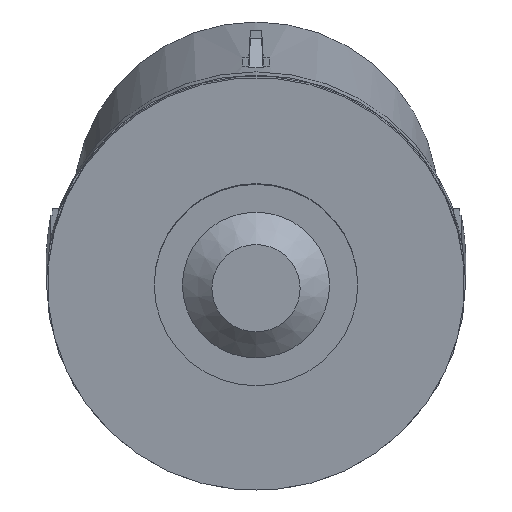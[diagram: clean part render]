
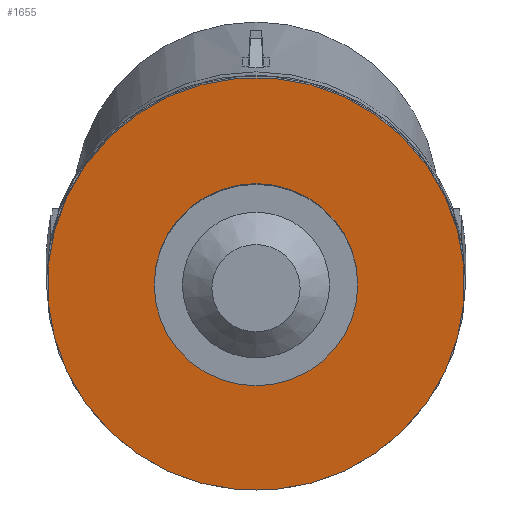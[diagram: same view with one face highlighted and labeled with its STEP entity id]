
A CAD part, left-side view. The second image highlights one B-rep face of the part: STEP entity #1655.
In plain terms, the highlighted planar face has unit normal (-0.99, 0, -0.144).
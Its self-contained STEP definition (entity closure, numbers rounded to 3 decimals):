
#148 = DIRECTION ( 'NONE',  ( 0., -1., 0. ) ) ;
#198 = CARTESIAN_POINT ( 'NONE',  ( -569.267, -291., 645.884 ) ) ;
#329 = DIRECTION ( 'NONE',  ( -0.99, 0., -0.144 ) ) ;
#349 = DIRECTION ( 'NONE',  ( -0.102, -0.707, 0.7 ) ) ;
#524 = EDGE_CURVE ( 'NONE', #1650, #1650, #1756, .T. ) ;
#618 = DIRECTION ( 'NONE',  ( 0.99, 0., 0.144 ) ) ;
#670 = DIRECTION ( 'NONE',  ( -0.102, -0.707, 0.7 ) ) ;
#771 = AXIS2_PLACEMENT_3D ( 'NONE', #1153, #1900, #349 ) ;
#822 = CARTESIAN_POINT ( 'NONE',  ( -569.267, -194., 645.884 ) ) ;
#925 = CARTESIAN_POINT ( 'NONE',  ( -569.267, -194., 645.884 ) ) ;
#1006 = CARTESIAN_POINT ( 'NONE',  ( -590.194, -338.957, 789.323 ) ) ;
#1119 = FACE_BOUND ( 'NONE', #2032, .T. ) ;
#1153 = CARTESIAN_POINT ( 'NONE',  ( -569.267, -194., 645.884 ) ) ;
#1282 = PLANE ( 'NONE',  #1488 ) ;
#1424 = AXIS2_PLACEMENT_3D ( 'NONE', #925, #618, #148 ) ;
#1463 = FACE_OUTER_BOUND ( 'NONE', #1495, .T. ) ;
#1488 = AXIS2_PLACEMENT_3D ( 'NONE', #822, #329, #670 ) ;
#1495 = EDGE_LOOP ( 'NONE', ( #1809 ) ) ;
#1618 = EDGE_CURVE ( 'NONE', #1634, #1634, #1660, .T. ) ;
#1634 = VERTEX_POINT ( 'NONE', #1006 ) ;
#1650 = VERTEX_POINT ( 'NONE', #198 ) ;
#1655 = ADVANCED_FACE ( 'NONE', ( #1119, #1463 ), #1282, .T. ) ;
#1660 = CIRCLE ( 'NONE', #771, 205. ) ;
#1693 = ORIENTED_EDGE ( 'NONE', *, *, #524, .T. ) ;
#1756 = CIRCLE ( 'NONE', #1424, 97. ) ;
#1809 = ORIENTED_EDGE ( 'NONE', *, *, #1618, .T. ) ;
#1900 = DIRECTION ( 'NONE',  ( -0.99, 0., -0.144 ) ) ;
#2032 = EDGE_LOOP ( 'NONE', ( #1693 ) ) ;
